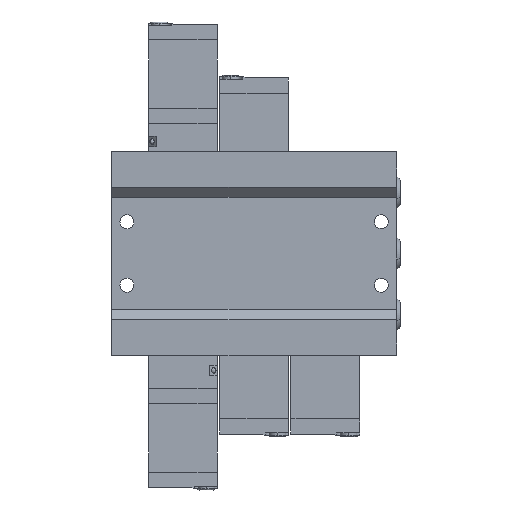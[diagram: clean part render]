
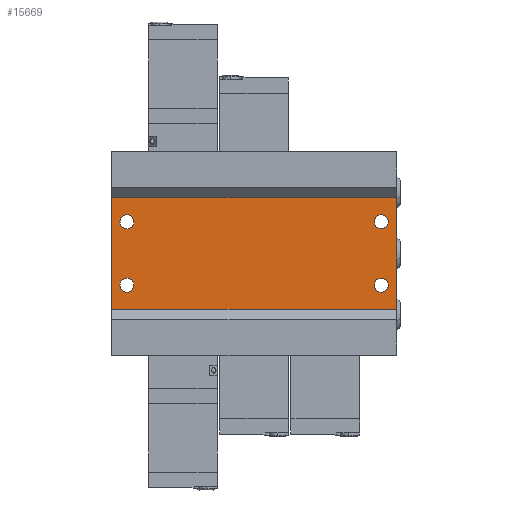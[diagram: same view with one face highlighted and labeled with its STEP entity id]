
A CAD part, front view. The second image highlights one B-rep face of the part: STEP entity #15669.
In plain terms, the highlighted planar face has unit normal (0, -1, 0).
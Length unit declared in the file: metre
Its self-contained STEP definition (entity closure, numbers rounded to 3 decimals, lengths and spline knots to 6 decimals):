
#549 = CARTESIAN_POINT ( 'NONE',  ( -0.056, -0.0175, 0.022 ) ) ;
#555 = DIRECTION ( 'NONE',  ( 0., -1., 0. ) ) ;
#853 = AXIS2_PLACEMENT_3D ( 'NONE', #4091, #13488, #5442 ) ;
#1161 = EDGE_CURVE ( 'NONE', #3865, #2060, #16687, .T. ) ;
#1388 = ORIENTED_EDGE ( 'NONE', *, *, #16048, .F. ) ;
#1390 = CARTESIAN_POINT ( 'NONE',  ( 0.05, -0.0175, -0.0125 ) ) ;
#1416 = DIRECTION ( 'NONE',  ( 0., -1., 0. ) ) ;
#1439 = DIRECTION ( 'NONE',  ( 0., 0., 1. ) ) ;
#1746 = ORIENTED_EDGE ( 'NONE', *, *, #6622, .F. ) ;
#2022 = EDGE_LOOP ( 'NONE', ( #1746, #3149 ) ) ;
#2039 = EDGE_LOOP ( 'NONE', ( #3924, #16956 ) ) ;
#2060 = VERTEX_POINT ( 'NONE', #14531 ) ;
#2217 = VERTEX_POINT ( 'NONE', #16700 ) ;
#2267 = AXIS2_PLACEMENT_3D ( 'NONE', #12213, #14955, #6874 ) ;
#2803 = AXIS2_PLACEMENT_3D ( 'NONE', #13813, #5754, #15213 ) ;
#2814 = VERTEX_POINT ( 'NONE', #3000 ) ;
#3000 = CARTESIAN_POINT ( 'NONE',  ( -0.05, -0.0175, -0.00975 ) ) ;
#3064 = EDGE_CURVE ( 'NONE', #2217, #5445, #9184, .T. ) ;
#3149 = ORIENTED_EDGE ( 'NONE', *, *, #12263, .F. ) ;
#3167 = CARTESIAN_POINT ( 'NONE',  ( 0., -0.0175, -0.022 ) ) ;
#3195 = CIRCLE ( 'NONE', #853, 0.00275 ) ;
#3244 = ORIENTED_EDGE ( 'NONE', *, *, #3064, .F. ) ;
#3316 = VECTOR ( 'NONE', #6380, 1. ) ;
#3400 = VERTEX_POINT ( 'NONE', #14459 ) ;
#3707 = LINE ( 'NONE', #17244, #3316 ) ;
#3865 = VERTEX_POINT ( 'NONE', #13875 ) ;
#3924 = ORIENTED_EDGE ( 'NONE', *, *, #12033, .F. ) ;
#4051 = LINE ( 'NONE', #15474, #7638 ) ;
#4091 = CARTESIAN_POINT ( 'NONE',  ( -0.05, -0.0175, -0.0125 ) ) ;
#4173 = CARTESIAN_POINT ( 'NONE',  ( -0.056, -0.0175, 0. ) ) ;
#4724 = DIRECTION ( 'NONE',  ( 0., -1., 0. ) ) ;
#5137 = CARTESIAN_POINT ( 'NONE',  ( 0.05, -0.0175, -0.0125 ) ) ;
#5233 = CARTESIAN_POINT ( 'NONE',  ( -0.056, -0.0175, -0.022 ) ) ;
#5375 = EDGE_CURVE ( 'NONE', #17019, #13771, #4051, .T. ) ;
#5442 = DIRECTION ( 'NONE',  ( 0., 0., 1. ) ) ;
#5445 = VERTEX_POINT ( 'NONE', #16971 ) ;
#5640 = VECTOR ( 'NONE', #9599, 1. ) ;
#5754 = DIRECTION ( 'NONE',  ( 0., -1., 0. ) ) ;
#5823 = VERTEX_POINT ( 'NONE', #549 ) ;
#5837 = FACE_BOUND ( 'NONE', #13974, .T. ) ;
#5971 = EDGE_LOOP ( 'NONE', ( #3244, #17259 ) ) ;
#6380 = DIRECTION ( 'NONE',  ( 1., 0., 0. ) ) ;
#6485 = DIRECTION ( 'NONE',  ( 0., 0., 1. ) ) ;
#6622 = EDGE_CURVE ( 'NONE', #2814, #8627, #11085, .T. ) ;
#6874 = DIRECTION ( 'NONE',  ( 0., 0., 1. ) ) ;
#7178 = EDGE_CURVE ( 'NONE', #13771, #17016, #15533, .T. ) ;
#7194 = AXIS2_PLACEMENT_3D ( 'NONE', #15838, #7725, #17222 ) ;
#7638 = VECTOR ( 'NONE', #8720, 1. ) ;
#7704 = CARTESIAN_POINT ( 'NONE',  ( 0.056, -0.0175, -0.022 ) ) ;
#7725 = DIRECTION ( 'NONE',  ( 0., -1., 0. ) ) ;
#8095 = EDGE_CURVE ( 'NONE', #5823, #17019, #3707, .T. ) ;
#8370 = CIRCLE ( 'NONE', #12726, 0.00275 ) ;
#8407 = ORIENTED_EDGE ( 'NONE', *, *, #5375, .F. ) ;
#8533 = CARTESIAN_POINT ( 'NONE',  ( 0.05, -0.0175, 0.0125 ) ) ;
#8627 = VERTEX_POINT ( 'NONE', #11627 ) ;
#8710 = CARTESIAN_POINT ( 'NONE',  ( -0.05, -0.0175, 0.0125 ) ) ;
#8720 = DIRECTION ( 'NONE',  ( 0., 0., -1. ) ) ;
#8746 = DIRECTION ( 'NONE',  ( 0., -1., 0. ) ) ;
#8881 = DIRECTION ( 'NONE',  ( 0., 0., 1. ) ) ;
#9010 = FACE_OUTER_BOUND ( 'NONE', #11896, .T. ) ;
#9184 = CIRCLE ( 'NONE', #13091, 0.00275 ) ;
#9273 = CIRCLE ( 'NONE', #11378, 0.00275 ) ;
#9599 = DIRECTION ( 'NONE',  ( 0., 0., 1. ) ) ;
#9661 = LINE ( 'NONE', #4173, #5640 ) ;
#9823 = CIRCLE ( 'NONE', #7194, 0.00275 ) ;
#9888 = DIRECTION ( 'NONE',  ( 0., 0., 1. ) ) ;
#9895 = DIRECTION ( 'NONE',  ( -1., 0., 0. ) ) ;
#10478 = EDGE_CURVE ( 'NONE', #3400, #13535, #16112, .T. ) ;
#11085 = CIRCLE ( 'NONE', #13776, 0.00275 ) ;
#11378 = AXIS2_PLACEMENT_3D ( 'NONE', #8533, #555, #9888 ) ;
#11627 = CARTESIAN_POINT ( 'NONE',  ( -0.05, -0.0175, -0.01525 ) ) ;
#11896 = EDGE_LOOP ( 'NONE', ( #12681, #13150, #12385, #8407 ) ) ;
#11909 = VECTOR ( 'NONE', #9895, 1. ) ;
#12033 = EDGE_CURVE ( 'NONE', #13535, #3400, #9273, .T. ) ;
#12213 = CARTESIAN_POINT ( 'NONE',  ( -0.056, -0.0175, -0.022 ) ) ;
#12263 = EDGE_CURVE ( 'NONE', #8627, #2814, #3195, .T. ) ;
#12385 = ORIENTED_EDGE ( 'NONE', *, *, #7178, .F. ) ;
#12585 = FACE_BOUND ( 'NONE', #5971, .T. ) ;
#12681 = ORIENTED_EDGE ( 'NONE', *, *, #8095, .F. ) ;
#12726 = AXIS2_PLACEMENT_3D ( 'NONE', #5137, #14560, #6485 ) ;
#12767 = ORIENTED_EDGE ( 'NONE', *, *, #1161, .F. ) ;
#12797 = CARTESIAN_POINT ( 'NONE',  ( -0.05, -0.0175, -0.0125 ) ) ;
#13005 = FACE_BOUND ( 'NONE', #2039, .T. ) ;
#13091 = AXIS2_PLACEMENT_3D ( 'NONE', #8710, #8746, #8881 ) ;
#13150 = ORIENTED_EDGE ( 'NONE', *, *, #15358, .F. ) ;
#13488 = DIRECTION ( 'NONE',  ( 0., -1., 0. ) ) ;
#13535 = VERTEX_POINT ( 'NONE', #14839 ) ;
#13550 = PLANE ( 'NONE',  #2267 ) ;
#13771 = VERTEX_POINT ( 'NONE', #7704 ) ;
#13776 = AXIS2_PLACEMENT_3D ( 'NONE', #12797, #4724, #14137 ) ;
#13813 = CARTESIAN_POINT ( 'NONE',  ( 0.05, -0.0175, 0.0125 ) ) ;
#13875 = CARTESIAN_POINT ( 'NONE',  ( 0.05, -0.0175, -0.01525 ) ) ;
#13974 = EDGE_LOOP ( 'NONE', ( #1388, #12767 ) ) ;
#14137 = DIRECTION ( 'NONE',  ( 0., 0., 1. ) ) ;
#14211 = AXIS2_PLACEMENT_3D ( 'NONE', #1390, #1416, #1439 ) ;
#14459 = CARTESIAN_POINT ( 'NONE',  ( 0.05, -0.0175, 0.00975 ) ) ;
#14531 = CARTESIAN_POINT ( 'NONE',  ( 0.05, -0.0175, -0.00975 ) ) ;
#14560 = DIRECTION ( 'NONE',  ( 0., -1., 0. ) ) ;
#14839 = CARTESIAN_POINT ( 'NONE',  ( 0.05, -0.0175, 0.01525 ) ) ;
#14955 = DIRECTION ( 'NONE',  ( 0., 1., 0. ) ) ;
#15213 = DIRECTION ( 'NONE',  ( 0., 0., 1. ) ) ;
#15358 = EDGE_CURVE ( 'NONE', #17016, #5823, #9661, .T. ) ;
#15474 = CARTESIAN_POINT ( 'NONE',  ( 0.056, -0.0175, 0. ) ) ;
#15533 = LINE ( 'NONE', #3167, #11909 ) ;
#15669 = ADVANCED_FACE ( 'NONE', ( #16224, #13005, #5837, #12585, #9010 ), #13550, .F. ) ;
#15838 = CARTESIAN_POINT ( 'NONE',  ( -0.05, -0.0175, 0.0125 ) ) ;
#16048 = EDGE_CURVE ( 'NONE', #2060, #3865, #8370, .T. ) ;
#16068 = CARTESIAN_POINT ( 'NONE',  ( 0.056, -0.0175, 0.022 ) ) ;
#16112 = CIRCLE ( 'NONE', #2803, 0.00275 ) ;
#16224 = FACE_BOUND ( 'NONE', #2022, .T. ) ;
#16687 = CIRCLE ( 'NONE', #14211, 0.00275 ) ;
#16700 = CARTESIAN_POINT ( 'NONE',  ( -0.05, -0.0175, 0.01525 ) ) ;
#16861 = EDGE_CURVE ( 'NONE', #5445, #2217, #9823, .T. ) ;
#16956 = ORIENTED_EDGE ( 'NONE', *, *, #10478, .F. ) ;
#16971 = CARTESIAN_POINT ( 'NONE',  ( -0.05, -0.0175, 0.00975 ) ) ;
#17016 = VERTEX_POINT ( 'NONE', #5233 ) ;
#17019 = VERTEX_POINT ( 'NONE', #16068 ) ;
#17222 = DIRECTION ( 'NONE',  ( 0., 0., 1. ) ) ;
#17244 = CARTESIAN_POINT ( 'NONE',  ( 0., -0.0175, 0.022 ) ) ;
#17259 = ORIENTED_EDGE ( 'NONE', *, *, #16861, .F. ) ;
